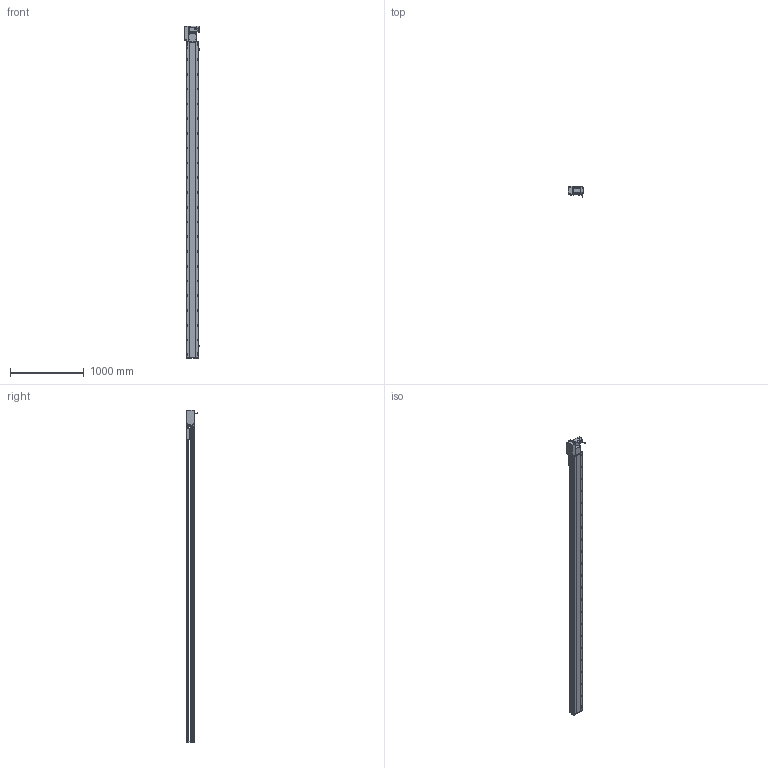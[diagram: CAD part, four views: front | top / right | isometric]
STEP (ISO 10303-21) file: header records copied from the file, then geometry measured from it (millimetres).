
FILE_DESCRIPTION (( 'STEP AP214' ), '1' );
FILE_NAME ('RTB17S-XX-4000-L-M75-C4.STEP', '2025-12-12T00:30:54', ( '' ), ( '' ), 'SwSTEP 2.0', 'SolidWorks 2018', '' );
FILE_SCHEMA (( 'AUTOMOTIVE_DESIGN' ));
Length unit declared in the file: millimetre
Products named in the file (15): 750W萇儂^RTB17S-XX-XX-L-M75-C4; RTB17S-XX-4000-L-M75-C4; RTB17S-L-004-賑釱^RTB17S-賑釱_RTB17S-XX-XX-L-M75-C4; RTH13-BL-012覜茼え俋离^RTB17S-賑釱_RTB17S-XX-XX-L-M75-C4; RTB22S-GY-005P^RTB17S-L-々湍釱蚾饜-750W_RTB17S-XX-XX-L-M75-C4; EE672^RTB17S-XX-XX-L-M75-C4; RTB17-R-011菁釱^RTB17S-XX-XX-L-M75-C4; RMP17S-L-014-T20-P75--々湍釱^RTB17S-L-々湍釱蚾饜-750W_RTB17S-XX-XX-L-M75-C4; RTB17S-L-々湍釱蚾饜-750W^RTB17S-XX-XX-L-M75-C4; RTB17S-L-001-耜醱啣^RTB17S-XX-XX-L-M75-C4; RTB22S-GY-017P^RTB17S-L-々湍釱蚾饜-750W_RTB17S-XX-XX-L-M75-C4; RTB22S-GY-008-M75--萇儂啣^RTB17S-L-々湍釱蚾饜-750W_RTB17S-XX-XX-L-M75-C4; RTB17S-賑釱^RTB17S-XX-XX-L-M75-C4; RTB22S-GY-018P^RTB17S-L-々湍釱蚾饜-750W_RTB17S-XX-XX-L-M75-C4; RTB17S-L-007奻裔^RTB17S-XX-XX-L-M75-C4
Assembly tree (17 placements, depth 3):
  RTB17S-XX-4000-L-M75-C4
    RTB17-R-011菁釱^RTB17S-XX-XX-L-M75-C4
    EE672^RTB17S-XX-XX-L-M75-C4  x3
    RTB17S-L-001-耜醱啣^RTB17S-XX-XX-L-M75-C4
    RTB17S-賑釱^RTB17S-XX-XX-L-M75-C4
      RTB17S-L-004-賑釱^RTB17S-賑釱_RTB17S-XX-XX-L-M75-C4
      RTH13-BL-012覜茼え俋离^RTB17S-賑釱_RTB17S-XX-XX-L-M75-C4
    RTB17S-L-007奻裔^RTB17S-XX-XX-L-M75-C4
    750W萇儂^RTB17S-XX-XX-L-M75-C4
    RTB17S-L-々湍釱蚾饜-750W^RTB17S-XX-XX-L-M75-C4
      RMP17S-L-014-T20-P75--々湍釱^RTB17S-L-々湍釱蚾饜-750W_RTB17S-XX-XX-L-M75-C4
      RTB22S-GY-005P^RTB17S-L-々湍釱蚾饜-750W_RTB17S-XX-XX-L-M75-C4
      RTB22S-GY-017P^RTB17S-L-々湍釱蚾饜-750W_RTB17S-XX-XX-L-M75-C4  x2
      RTB22S-GY-008-M75--萇儂啣^RTB17S-L-々湍釱蚾饜-750W_RTB17S-XX-XX-L-M75-C4
      RTB22S-GY-018P^RTB17S-L-々湍釱蚾饜-750W_RTB17S-XX-XX-L-M75-C4
Bounding box: 210.4 x 152.7 x 4499 mm (x, y, z)
Volume: 30957236.7 mm3; surface area: 5755007.4 mm2
Topology: 17 solids, 17 shells, 2329 faces, 6592 edges, 4274 vertices
Faces by surface type: plane 1000, cylinder 913, bspline 294, cone 110, sphere 8, torus 4
Entity records: 69622 total; most frequent: CARTESIAN_POINT 20856, ORIENTED_EDGE 10028, DIRECTION 9212, EDGE_CURVE 5014, AXIS2_PLACEMENT_3D 3294, VERTEX_POINT 3278, LINE 2624, VECTOR 2624
